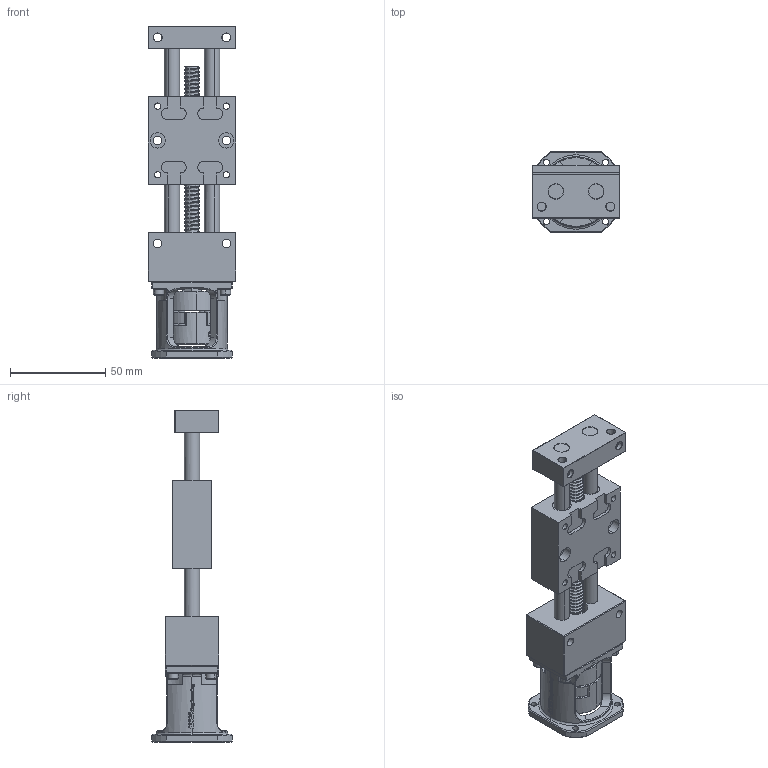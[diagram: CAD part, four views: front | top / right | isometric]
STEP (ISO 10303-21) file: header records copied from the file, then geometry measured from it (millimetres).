
FILE_DESCRIPTION (( 'STEP AP203' ), '1' );
FILE_NAME ('MPT5008-AK-B.STEP', '2015-12-11T09:58:45', ( '' ), ( '' ), 'SwSTEP 2.0', 'SolidWorks 2014', '' );
FILE_SCHEMA (( 'CONFIG_CONTROL_DESIGN' ));
Products named in the file (3): MPT5008-000-01-Festteil-AK; MPT08-000-02-Schlitten-komplett; MPT5008-AK-B
Assembly tree (2 placements, depth 2):
  MPT5008-AK-B
    MPT5008-000-01-Festteil-AK
    MPT08-000-02-Schlitten-komplett
Bounding box: 46 x 42 x 174 mm (x, y, z)
Volume: 114292.6 mm3; surface area: 50295.4 mm2
Topology: 2 solids, 28 shells, 1538 faces, 4107 edges, 2664 vertices
Faces by surface type: cylinder 587, plane 446, bspline 321, cone 157, torus 27
Entity records: 95627 total; most frequent: CARTESIAN_POINT 60705, ORIENTED_EDGE 8154, DIRECTION 5817, EDGE_CURVE 4077, VERTEX_POINT 2664, AXIS2_PLACEMENT_3D 2186, EDGE_LOOP 1707, FACE_OUTER_BOUND 1538
